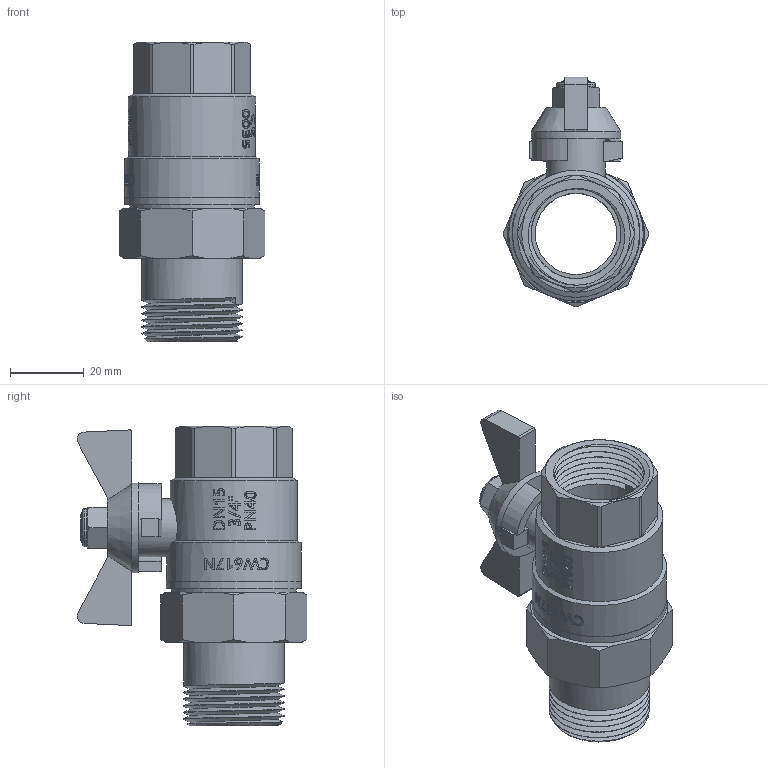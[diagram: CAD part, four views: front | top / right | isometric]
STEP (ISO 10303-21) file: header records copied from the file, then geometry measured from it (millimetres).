
FILE_DESCRIPTION(/* description */ (''),/* implementation_level */ '2;1');
FILE_NAME(/* name */ 'H:\Мишенин_3D\Исходные файлы 3D\VT.227.N.05.stp',/* time_stamp */ '2018-01-15T13:39:57+03:00',/* author */ ('MisheninAL'),/* organization */ (''),/* preprocessor_version */ 'ST-DEVELOPER v16.13',/* originating_system */ 'Autodesk Inventor 2018',/* authorisation */ '');
FILE_SCHEMA (('AUTOMOTIVE_DESIGN { 1 0 10303 214 3 1 1 }'));
Length unit declared in the file: millimetre
Products named in the file (1): VT.215_ ВН_3%4
Bounding box: 39.51 x 62.15 x 81.19 mm (x, y, z)
Volume: 41550 mm3; surface area: 21415.2 mm2
Topology: 1 solids, 1 shells, 544 faces, 1463 edges, 970 vertices
Faces by surface type: plane 232, bspline 198, cylinder 83, cone 23, torus 8
Full cylindrical faces by diameter (mm): 8 x1, 10.392 x1, 15.729 x1, 22 x1, 24.3 x7, 24.322 x1, 27.236 x5, 33.756 x1, 34.406 x1, 36.393 x1, 36.556 x1
Entity records: 26552 total; most frequent: CARTESIAN_POINT 14510, ORIENTED_EDGE 2808, DIRECTION 1937, EDGE_CURVE 1404, VERTEX_POINT 938, LINE 651, VECTOR 651, AXIS2_PLACEMENT_3D 643
